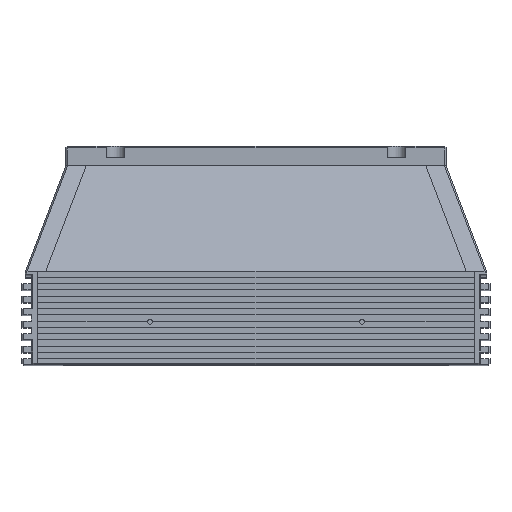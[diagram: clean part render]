
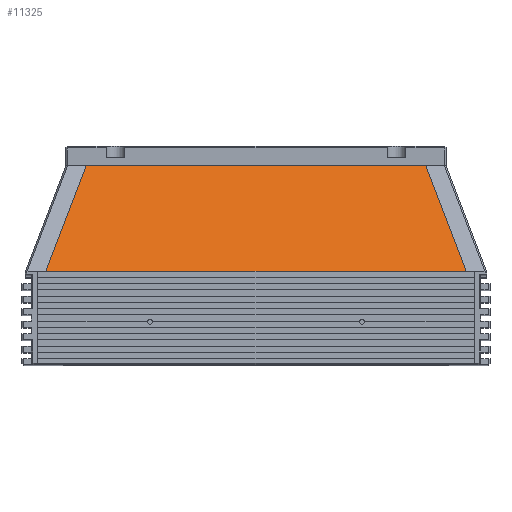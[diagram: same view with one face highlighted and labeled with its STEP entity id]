
A CAD part, top view. The second image highlights one B-rep face of the part: STEP entity #11325.
In plain terms, the highlighted planar face has unit normal (0, 0.358, 0.934).
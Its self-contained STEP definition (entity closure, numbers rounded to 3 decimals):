
#273 = VERTEX_POINT ( 'NONE', #22642 ) ;
#1325 = DIRECTION ( 'NONE',  ( -0.337, 0.879, -0.337 ) ) ;
#1326 = LINE ( 'NONE', #24420, #4320 ) ;
#1759 = ORIENTED_EDGE ( 'NONE', *, *, #5713, .T. ) ;
#3426 = DIRECTION ( 'NONE',  ( -1., 0., 0. ) ) ;
#4160 = VECTOR ( 'NONE', #26659, 1000. ) ;
#4320 = VECTOR ( 'NONE', #3426, 1000. ) ;
#4781 = CARTESIAN_POINT ( 'NONE',  ( 11.862, 70.688, 282.769 ) ) ;
#5067 = CARTESIAN_POINT ( 'NONE',  ( 122.061, 33.819, 296.922 ) ) ;
#5713 = EDGE_CURVE ( 'NONE', #26976, #24451, #21068, .T. ) ;
#6947 = DIRECTION ( 'NONE',  ( 0., -0.358, -0.934 ) ) ;
#7576 = EDGE_CURVE ( 'NONE', #24451, #16512, #14975, .T. ) ;
#9409 = VECTOR ( 'NONE', #1325, 1000. ) ;
#10989 = VECTOR ( 'NONE', #15255, 1000. ) ;
#11325 = ADVANCED_FACE ( 'NONE', ( #27040 ), #13400, .F. ) ;
#12068 = ORIENTED_EDGE ( 'NONE', *, *, #7576, .T. ) ;
#13400 = PLANE ( 'NONE',  #14350 ) ;
#13585 = DIRECTION ( 'NONE',  ( 0., 0.934, -0.358 ) ) ;
#14350 = AXIS2_PLACEMENT_3D ( 'NONE', #5067, #6947, #13585 ) ;
#14915 = ORIENTED_EDGE ( 'NONE', *, *, #21967, .T. ) ;
#14975 = LINE ( 'NONE', #4781, #10989 ) ;
#15255 = DIRECTION ( 'NONE',  ( -0.337, -0.879, 0.337 ) ) ;
#15875 = CARTESIAN_POINT ( 'NONE',  ( 108.194, 29.18, 298.703 ) ) ;
#16512 = VERTEX_POINT ( 'NONE', #17670 ) ;
#16783 = CARTESIAN_POINT ( 'NONE',  ( -2.317, 33.749, 296.949 ) ) ;
#17670 = CARTESIAN_POINT ( 'NONE',  ( -15.369, -0.251, 310. ) ) ;
#19718 = EDGE_CURVE ( 'NONE', #273, #16512, #1326, .T. ) ;
#21057 = ORIENTED_EDGE ( 'NONE', *, *, #19718, .F. ) ;
#21068 = LINE ( 'NONE', #26486, #4160 ) ;
#21689 = CARTESIAN_POINT ( 'NONE',  ( 106.44, 33.749, 296.949 ) ) ;
#21967 = EDGE_CURVE ( 'NONE', #273, #26976, #25684, .T. ) ;
#22515 = EDGE_LOOP ( 'NONE', ( #14915, #1759, #12068, #21057 ) ) ;
#22642 = CARTESIAN_POINT ( 'NONE',  ( 119.491, -0.251, 310. ) ) ;
#24420 = CARTESIAN_POINT ( 'NONE',  ( 122.061, -0.251, 310. ) ) ;
#24451 = VERTEX_POINT ( 'NONE', #16783 ) ;
#25684 = LINE ( 'NONE', #15875, #9409 ) ;
#26486 = CARTESIAN_POINT ( 'NONE',  ( 122.061, 33.749, 296.949 ) ) ;
#26659 = DIRECTION ( 'NONE',  ( -1., 0., 0. ) ) ;
#26976 = VERTEX_POINT ( 'NONE', #21689 ) ;
#27040 = FACE_OUTER_BOUND ( 'NONE', #22515, .T. ) ;
